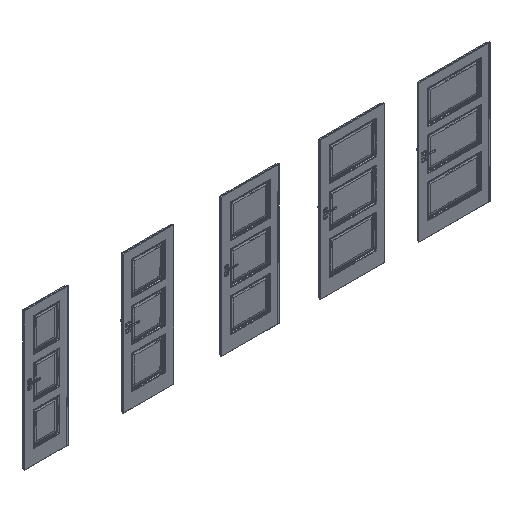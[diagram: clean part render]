
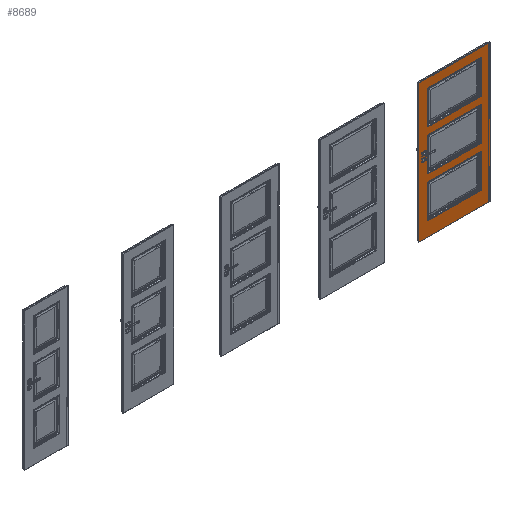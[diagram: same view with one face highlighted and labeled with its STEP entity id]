
A CAD part, isometric view. The second image highlights one B-rep face of the part: STEP entity #8689.
In plain terms, the highlighted planar face has unit normal (0, -1, 0).
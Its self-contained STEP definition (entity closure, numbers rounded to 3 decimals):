
#2682=B_SPLINE_CURVE_WITH_KNOTS('',3,(#120280,#120281,#120282,#120283),
 .UNSPECIFIED.,.F.,.F.,(4,4),(0.,1.),.UNSPECIFIED.);
#2683=B_SPLINE_CURVE_WITH_KNOTS('',3,(#120288,#120289,#120290,#120291),
 .UNSPECIFIED.,.F.,.F.,(4,4),(0.,1.),.UNSPECIFIED.);
#2684=B_SPLINE_CURVE_WITH_KNOTS('',3,(#120293,#120294,#120295,#120296),
 .UNSPECIFIED.,.F.,.F.,(4,4),(0.,1.),.UNSPECIFIED.);
#2685=B_SPLINE_CURVE_WITH_KNOTS('',3,(#120298,#120299,#120300,#120301),
 .UNSPECIFIED.,.F.,.F.,(4,4),(0.,1.),.UNSPECIFIED.);
#2686=B_SPLINE_CURVE_WITH_KNOTS('',3,(#120302,#120303,#120304,#120305),
 .UNSPECIFIED.,.F.,.F.,(4,4),(0.,1.),.UNSPECIFIED.);
#2687=B_SPLINE_CURVE_WITH_KNOTS('',3,(#120310,#120311,#120312,#120313),
 .UNSPECIFIED.,.F.,.F.,(4,4),(0.,1.),.UNSPECIFIED.);
#2688=B_SPLINE_CURVE_WITH_KNOTS('',3,(#120315,#120316,#120317,#120318),
 .UNSPECIFIED.,.F.,.F.,(4,4),(0.,1.),.UNSPECIFIED.);
#2689=B_SPLINE_CURVE_WITH_KNOTS('',3,(#120320,#120321,#120322,#120323),
 .UNSPECIFIED.,.F.,.F.,(4,4),(0.,1.),.UNSPECIFIED.);
#2690=B_SPLINE_CURVE_WITH_KNOTS('',3,(#120324,#120325,#120326,#120327),
 .UNSPECIFIED.,.F.,.F.,(4,4),(0.,1.),.UNSPECIFIED.);
#2691=B_SPLINE_CURVE_WITH_KNOTS('',3,(#120332,#120333,#120334,#120335),
 .UNSPECIFIED.,.F.,.F.,(4,4),(0.,1.),.UNSPECIFIED.);
#2692=B_SPLINE_CURVE_WITH_KNOTS('',3,(#120337,#120338,#120339,#120340),
 .UNSPECIFIED.,.F.,.F.,(4,4),(0.,1.),.UNSPECIFIED.);
#2693=B_SPLINE_CURVE_WITH_KNOTS('',3,(#120342,#120343,#120344,#120345),
 .UNSPECIFIED.,.F.,.F.,(4,4),(0.,1.),.UNSPECIFIED.);
#8689=ADVANCED_FACE('',(#11788,#11789,#11790,#11791),#10460,.F.);
#10460=PLANE('',#50112);
#11788=FACE_BOUND('',#14317,.T.);
#11789=FACE_BOUND('',#14318,.T.);
#11790=FACE_BOUND('',#14319,.T.);
#11791=FACE_BOUND('',#14320,.T.);
#14317=EDGE_LOOP('',(#26031,#26032,#26033,#26034));
#14318=EDGE_LOOP('',(#26035,#26036,#26037,#26038,#26039));
#14319=EDGE_LOOP('',(#26040,#26041,#26042,#26043,#26044));
#14320=EDGE_LOOP('',(#26045,#26046,#26047,#26048,#26049));
#26031=ORIENTED_EDGE('',*,*,#38387,.T.);
#26032=ORIENTED_EDGE('',*,*,#38388,.T.);
#26033=ORIENTED_EDGE('',*,*,#38389,.F.);
#26034=ORIENTED_EDGE('',*,*,#38390,.F.);
#26035=ORIENTED_EDGE('',*,*,#38391,.F.);
#26036=ORIENTED_EDGE('',*,*,#38392,.F.);
#26037=ORIENTED_EDGE('',*,*,#38393,.F.);
#26038=ORIENTED_EDGE('',*,*,#38394,.F.);
#26039=ORIENTED_EDGE('',*,*,#38395,.F.);
#26040=ORIENTED_EDGE('',*,*,#38396,.F.);
#26041=ORIENTED_EDGE('',*,*,#38397,.F.);
#26042=ORIENTED_EDGE('',*,*,#38398,.F.);
#26043=ORIENTED_EDGE('',*,*,#38399,.F.);
#26044=ORIENTED_EDGE('',*,*,#38400,.F.);
#26045=ORIENTED_EDGE('',*,*,#38401,.F.);
#26046=ORIENTED_EDGE('',*,*,#38402,.F.);
#26047=ORIENTED_EDGE('',*,*,#38403,.F.);
#26048=ORIENTED_EDGE('',*,*,#38404,.F.);
#26049=ORIENTED_EDGE('',*,*,#38405,.F.);
#32035=VERTEX_POINT('',#120273);
#32036=VERTEX_POINT('',#120274);
#32037=VERTEX_POINT('',#120276);
#32038=VERTEX_POINT('',#120278);
#32039=VERTEX_POINT('',#120284);
#32040=VERTEX_POINT('',#120285);
#32041=VERTEX_POINT('',#120287);
#32042=VERTEX_POINT('',#120292);
#32043=VERTEX_POINT('',#120297);
#32044=VERTEX_POINT('',#120306);
#32045=VERTEX_POINT('',#120307);
#32046=VERTEX_POINT('',#120309);
#32047=VERTEX_POINT('',#120314);
#32048=VERTEX_POINT('',#120319);
#32049=VERTEX_POINT('',#120328);
#32050=VERTEX_POINT('',#120329);
#32051=VERTEX_POINT('',#120331);
#32052=VERTEX_POINT('',#120336);
#32053=VERTEX_POINT('',#120341);
#38387=EDGE_CURVE('',#32035,#32036,#43045,.T.);
#38388=EDGE_CURVE('',#32036,#32037,#43046,.T.);
#38389=EDGE_CURVE('',#32038,#32037,#43047,.T.);
#38390=EDGE_CURVE('',#32035,#32038,#43048,.T.);
#38391=EDGE_CURVE('',#32039,#32040,#2682,.T.);
#38392=EDGE_CURVE('',#32041,#32039,#43049,.T.);
#38393=EDGE_CURVE('',#32042,#32041,#2683,.T.);
#38394=EDGE_CURVE('',#32043,#32042,#2684,.T.);
#38395=EDGE_CURVE('',#32040,#32043,#2685,.T.);
#38396=EDGE_CURVE('',#32044,#32045,#2686,.T.);
#38397=EDGE_CURVE('',#32046,#32044,#43050,.T.);
#38398=EDGE_CURVE('',#32047,#32046,#2687,.T.);
#38399=EDGE_CURVE('',#32048,#32047,#2688,.T.);
#38400=EDGE_CURVE('',#32045,#32048,#2689,.T.);
#38401=EDGE_CURVE('',#32049,#32050,#2690,.T.);
#38402=EDGE_CURVE('',#32051,#32049,#43051,.T.);
#38403=EDGE_CURVE('',#32052,#32051,#2691,.T.);
#38404=EDGE_CURVE('',#32053,#32052,#2692,.T.);
#38405=EDGE_CURVE('',#32050,#32053,#2693,.T.);
#43045=LINE('',#120272,#47174);
#43046=LINE('',#120275,#47175);
#43047=LINE('',#120277,#47176);
#43048=LINE('',#120279,#47177);
#43049=LINE('',#120286,#47178);
#43050=LINE('',#120308,#47179);
#43051=LINE('',#120330,#47180);
#47174=VECTOR('',#58185,1.);
#47175=VECTOR('',#58186,1.);
#47176=VECTOR('',#58187,1.);
#47177=VECTOR('',#58188,1.);
#47178=VECTOR('',#58189,1.);
#47179=VECTOR('',#58190,1.);
#47180=VECTOR('',#58191,1.);
#50112=AXIS2_PLACEMENT_3D('',#120346,#58192,#58193);
#58185=DIRECTION('',(0.,0.,-1.));
#58186=DIRECTION('',(1.,0.,0.));
#58187=DIRECTION('',(0.,0.,-1.));
#58188=DIRECTION('',(1.,0.,0.));
#58189=DIRECTION('',(-1.,0.,0.));
#58190=DIRECTION('',(-1.,0.,0.));
#58191=DIRECTION('',(-1.,0.,0.));
#58192=DIRECTION('',(0.,1.,0.));
#58193=DIRECTION('',(-1.,0.,0.));
#120272=CARTESIAN_POINT('',(5478.,-39.3,2030.));
#120273=CARTESIAN_POINT('',(5478.,-39.3,2030.));
#120274=CARTESIAN_POINT('',(5478.,-39.3,2.));
#120275=CARTESIAN_POINT('',(5678.,-39.3,2.));
#120276=CARTESIAN_POINT('',(6522.,-39.3,2.));
#120277=CARTESIAN_POINT('',(6522.,-39.3,2030.));
#120278=CARTESIAN_POINT('',(6522.,-39.3,2030.));
#120279=CARTESIAN_POINT('',(5678.,-39.3,2030.));
#120280=CARTESIAN_POINT('',(5607.5,-39.3,704.5));
#120281=CARTESIAN_POINT('',(5607.5,-39.3,541.5));
#120282=CARTESIAN_POINT('',(5607.5,-39.3,378.5));
#120283=CARTESIAN_POINT('',(5607.5,-39.3,215.5));
#120284=CARTESIAN_POINT('',(5607.499,-39.3,704.501));
#120285=CARTESIAN_POINT('',(5607.498,-39.3,215.499));
#120286=CARTESIAN_POINT('',(5903.75,-39.3,704.5));
#120287=CARTESIAN_POINT('',(6392.502,-39.3,704.501));
#120288=CARTESIAN_POINT('',(6392.5,-39.3,215.5));
#120289=CARTESIAN_POINT('',(6392.5,-39.3,378.5));
#120290=CARTESIAN_POINT('',(6392.5,-39.3,541.5));
#120291=CARTESIAN_POINT('',(6392.5,-39.3,704.5));
#120292=CARTESIAN_POINT('',(6392.501,-39.3,215.499));
#120293=CARTESIAN_POINT('',(6000.,-39.3,215.5));
#120294=CARTESIAN_POINT('',(6130.833,-39.3,215.5));
#120295=CARTESIAN_POINT('',(6261.667,-39.3,215.5));
#120296=CARTESIAN_POINT('',(6392.5,-39.3,215.5));
#120297=CARTESIAN_POINT('',(6000.,-39.3,215.5));
#120298=CARTESIAN_POINT('',(5607.497,-39.3,215.497));
#120299=CARTESIAN_POINT('',(5738.333,-39.3,215.498));
#120300=CARTESIAN_POINT('',(5869.167,-39.3,215.499));
#120301=CARTESIAN_POINT('',(6000.,-39.3,215.5));
#120302=CARTESIAN_POINT('',(5607.5,-39.3,1302.5));
#120303=CARTESIAN_POINT('',(5607.5,-39.3,1139.5));
#120304=CARTESIAN_POINT('',(5607.5,-39.3,976.5));
#120305=CARTESIAN_POINT('',(5607.5,-39.3,813.5));
#120306=CARTESIAN_POINT('',(5607.499,-39.3,1302.501));
#120307=CARTESIAN_POINT('',(5607.498,-39.3,813.499));
#120308=CARTESIAN_POINT('',(5903.75,-39.3,1302.5));
#120309=CARTESIAN_POINT('',(6392.502,-39.3,1302.501));
#120310=CARTESIAN_POINT('',(6392.5,-39.3,813.5));
#120311=CARTESIAN_POINT('',(6392.5,-39.3,976.5));
#120312=CARTESIAN_POINT('',(6392.5,-39.3,1139.5));
#120313=CARTESIAN_POINT('',(6392.5,-39.3,1302.5));
#120314=CARTESIAN_POINT('',(6392.501,-39.3,813.499));
#120315=CARTESIAN_POINT('',(6000.,-39.3,813.5));
#120316=CARTESIAN_POINT('',(6130.833,-39.3,813.5));
#120317=CARTESIAN_POINT('',(6261.667,-39.3,813.5));
#120318=CARTESIAN_POINT('',(6392.5,-39.3,813.5));
#120319=CARTESIAN_POINT('',(6000.,-39.3,813.5));
#120320=CARTESIAN_POINT('',(5607.497,-39.3,813.497));
#120321=CARTESIAN_POINT('',(5738.333,-39.3,813.498));
#120322=CARTESIAN_POINT('',(5869.167,-39.3,813.499));
#120323=CARTESIAN_POINT('',(6000.,-39.3,813.5));
#120324=CARTESIAN_POINT('',(5607.5,-39.3,1900.5));
#120325=CARTESIAN_POINT('',(5607.5,-39.3,1737.5));
#120326=CARTESIAN_POINT('',(5607.5,-39.3,1574.5));
#120327=CARTESIAN_POINT('',(5607.5,-39.3,1411.5));
#120328=CARTESIAN_POINT('',(5607.499,-39.3,1900.501));
#120329=CARTESIAN_POINT('',(5607.498,-39.3,1411.499));
#120330=CARTESIAN_POINT('',(5903.75,-39.3,1900.5));
#120331=CARTESIAN_POINT('',(6392.502,-39.3,1900.501));
#120332=CARTESIAN_POINT('',(6392.5,-39.3,1411.5));
#120333=CARTESIAN_POINT('',(6392.5,-39.3,1574.5));
#120334=CARTESIAN_POINT('',(6392.5,-39.3,1737.5));
#120335=CARTESIAN_POINT('',(6392.5,-39.3,1900.5));
#120336=CARTESIAN_POINT('',(6392.501,-39.3,1411.499));
#120337=CARTESIAN_POINT('',(6000.,-39.3,1411.5));
#120338=CARTESIAN_POINT('',(6130.833,-39.3,1411.5));
#120339=CARTESIAN_POINT('',(6261.667,-39.3,1411.5));
#120340=CARTESIAN_POINT('',(6392.5,-39.3,1411.5));
#120341=CARTESIAN_POINT('',(6000.,-39.3,1411.5));
#120342=CARTESIAN_POINT('',(5607.497,-39.3,1411.497));
#120343=CARTESIAN_POINT('',(5738.333,-39.3,1411.498));
#120344=CARTESIAN_POINT('',(5869.167,-39.3,1411.499));
#120345=CARTESIAN_POINT('',(6000.,-39.3,1411.5));
#120346=CARTESIAN_POINT('',(5678.,-39.3,2030.));
